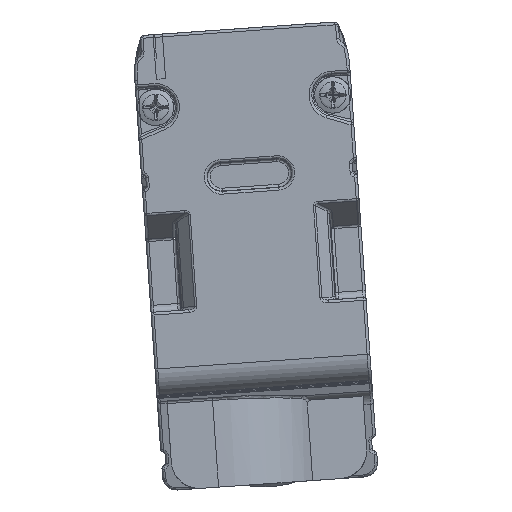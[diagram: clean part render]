
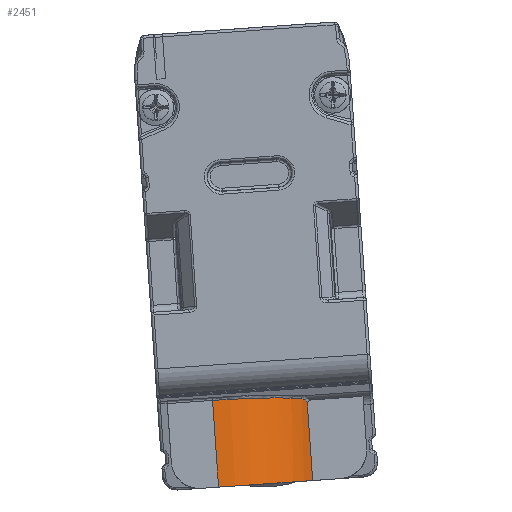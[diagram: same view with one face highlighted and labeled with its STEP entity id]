
A CAD part, front view. The second image highlights one B-rep face of the part: STEP entity #2451.
In plain terms, the highlighted cylindrical face has radius 7.5 mm (diameter 15 mm), a partial arc.
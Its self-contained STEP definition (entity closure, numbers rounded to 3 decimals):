
#447=CYLINDRICAL_SURFACE('',#23248,7.5);
#1421=B_SPLINE_CURVE_WITH_KNOTS('',3,(#39650,#39651,#39652,#39653,#39654,
#39655,#39656),.UNSPECIFIED.,.F.,.F.,(4,3,4),(0.,0.485,1.),.UNSPECIFIED.);
#1782=ELLIPSE('',#23246,7.53,7.5);
#2451=ADVANCED_FACE('',(#3776),#447,.T.);
#3776=FACE_OUTER_BOUND('',#4910,.T.);
#4910=EDGE_LOOP('',(#10010,#10011,#10012,#10013,#10014));
#6225=CIRCLE('',#23247,7.5);
#10010=ORIENTED_EDGE('',*,*,#17014,.T.);
#10011=ORIENTED_EDGE('',*,*,#17015,.T.);
#10012=ORIENTED_EDGE('',*,*,#17016,.T.);
#10013=ORIENTED_EDGE('',*,*,#17017,.T.);
#10014=ORIENTED_EDGE('',*,*,#17018,.F.);
#13977=VERTEX_POINT('',#39648);
#13978=VERTEX_POINT('',#39649);
#13979=VERTEX_POINT('',#39657);
#13980=VERTEX_POINT('',#39659);
#13981=VERTEX_POINT('',#39661);
#17014=EDGE_CURVE('',#13977,#13978,#19452,.T.);
#17015=EDGE_CURVE('',#13978,#13979,#1421,.T.);
#17016=EDGE_CURVE('',#13979,#13980,#1782,.T.);
#17017=EDGE_CURVE('',#13980,#13981,#19453,.T.);
#17018=EDGE_CURVE('',#13977,#13981,#6225,.T.);
#19452=LINE('',#39647,#21051);
#19453=LINE('',#39660,#21052);
#21051=VECTOR('',#28125,1.);
#21052=VECTOR('',#28128,1.);
#23246=AXIS2_PLACEMENT_3D('',#39658,#28126,#28127);
#23247=AXIS2_PLACEMENT_3D('',#39662,#28129,#28130);
#23248=AXIS2_PLACEMENT_3D('',#39663,#28131,#28132);
#28125=DIRECTION('',(-0.07,0.,0.998));
#28126=DIRECTION('',(0.069,-0.089,-0.994));
#28127=DIRECTION('',(0.006,0.996,-0.089));
#28128=DIRECTION('',(0.07,0.,-0.998));
#28129=DIRECTION('',(0.07,0.,-0.998));
#28130=DIRECTION('',(0.998,0.,0.07));
#28131=DIRECTION('',(0.07,0.,-0.998));
#28132=DIRECTION('',(0.,-1.,0.));
#39647=CARTESIAN_POINT('',(-40.701,-230.597,14.888));
#39648=CARTESIAN_POINT('',(-40.701,-230.597,14.888));
#39649=CARTESIAN_POINT('',(-41.088,-230.597,20.435));
#39650=CARTESIAN_POINT('',(-41.088,-230.597,20.435));
#39651=CARTESIAN_POINT('',(-41.139,-230.686,20.528));
#39652=CARTESIAN_POINT('',(-41.198,-230.793,20.603));
#39653=CARTESIAN_POINT('',(-41.263,-230.905,20.654));
#39654=CARTESIAN_POINT('',(-41.332,-231.024,20.708));
#39655=CARTESIAN_POINT('',(-41.408,-231.152,20.738));
#39656=CARTESIAN_POINT('',(-41.487,-231.278,20.743));
#39657=CARTESIAN_POINT('',(-41.487,-231.278,20.743));
#39658=CARTESIAN_POINT('',(-47.816,-227.318,19.944));
#39659=CARTESIAN_POINT('',(-47.863,-234.818,20.616));
#39660=CARTESIAN_POINT('',(-47.667,-234.818,17.815));
#39661=CARTESIAN_POINT('',(-47.43,-234.818,14.418));
#39662=CARTESIAN_POINT('',(-47.43,-227.318,14.418));
#39663=CARTESIAN_POINT('',(-52.434,-227.318,85.982));
